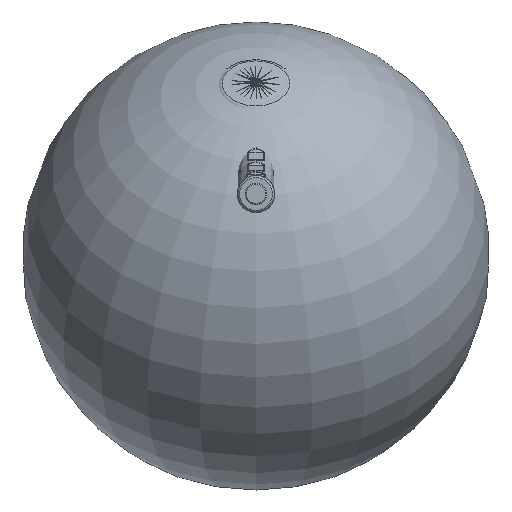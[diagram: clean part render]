
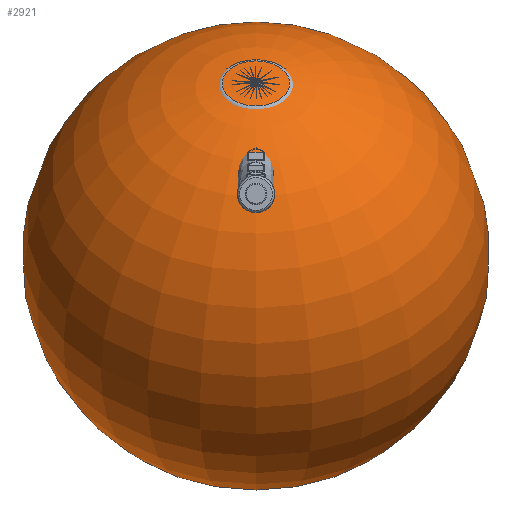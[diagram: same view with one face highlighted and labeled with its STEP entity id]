
A CAD part, front view. The second image highlights one B-rep face of the part: STEP entity #2921.
In plain terms, the highlighted toroidal (fillet/blend) face has major radius 0.812 mm and minor radius 220.261 mm.
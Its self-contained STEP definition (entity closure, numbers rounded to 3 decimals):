
#22 = CIRCLE ( 'NONE', #6269, 31.6 ) ;
#397 = DIRECTION ( 'NONE',  ( 0., 0.743, 0.669 ) ) ;
#466 = EDGE_CURVE ( 'NONE', #4128, #4128, #22, .T. ) ;
#1195 = AXIS2_PLACEMENT_3D ( 'NONE', #6745, #3170, #397 ) ;
#2921 = ADVANCED_FACE ( 'NONE', ( #5690 ), #5617, .T. ) ;
#3098 = ORIENTED_EDGE ( 'NONE', *, *, #466, .F. ) ;
#3170 = DIRECTION ( 'NONE',  ( 0., 0.669, -0.743 ) ) ;
#4128 = VERTEX_POINT ( 'NONE', #5056 ) ;
#5056 = CARTESIAN_POINT ( 'NONE',  ( 0., 179.834, 124.481 ) ) ;
#5397 = DIRECTION ( 'NONE',  ( 0., 0.743, 0.669 ) ) ;
#5401 = DIRECTION ( 'NONE',  ( 0., 0.669, -0.743 ) ) ;
#5404 = CARTESIAN_POINT ( 'NONE',  ( 0., 156.35, 103.336 ) ) ;
#5617 = TOROIDAL_SURFACE ( 'NONE', #1195, 0.812, 220.261 ) ;
#5690 = FACE_OUTER_BOUND ( 'NONE', #6023, .T. ) ;
#6023 = EDGE_LOOP ( 'NONE', ( #3098 ) ) ;
#6269 = AXIS2_PLACEMENT_3D ( 'NONE', #5404, #5401, #5397 ) ;
#6745 = CARTESIAN_POINT ( 'NONE',  ( 0., 302.287, -58.743 ) ) ;
